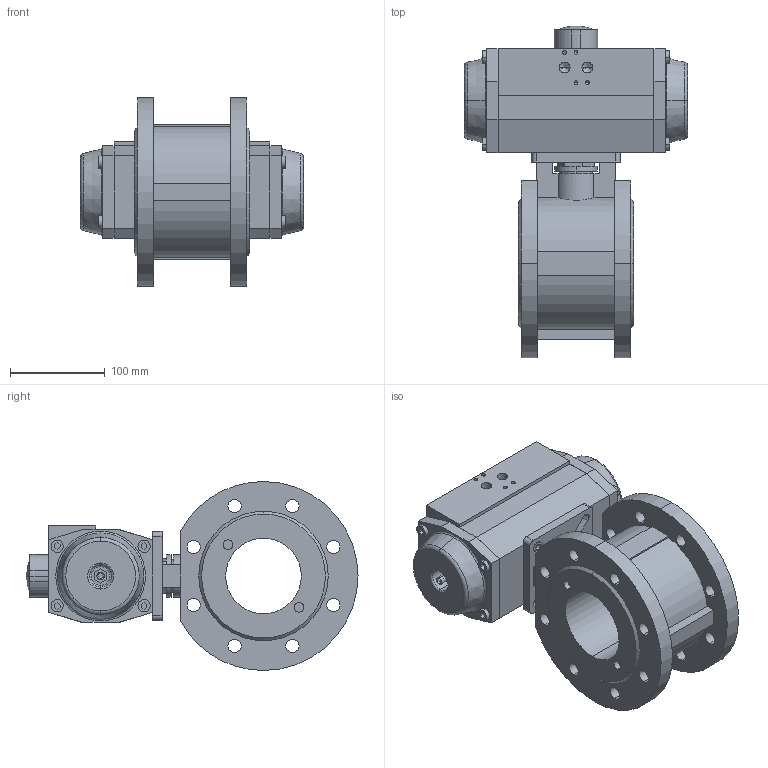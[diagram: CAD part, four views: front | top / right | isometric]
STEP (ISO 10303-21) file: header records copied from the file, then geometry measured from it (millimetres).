
FILE_DESCRIPTION (( 'STEP AP214' ), '1' );
FILE_NAME ('S15D DN80 AP3.5.STEP', '2012-04-24T08:15:15', ( 'Jan' ), ( '' ), 'SwSTEP 2.0', 'SolidWorks 2011', '' );
FILE_SCHEMA (( 'AUTOMOTIVE_DESIGN' ));
Length unit declared in the file: millimetre
Products named in the file (3): S15D KK DN80 PN16; AP3.5_Default<As Machined>; S15D DN80 AP3.5
Assembly tree (2 placements, depth 2):
  S15D DN80 AP3.5
    AP3.5_Default<As Machined>
    S15D KK DN80 PN16
Bounding box: 236 x 351.29 x 200 mm (x, y, z)
Volume: 4191925.1 mm3; surface area: 341819.8 mm2
Topology: 9 solids, 9 shells, 427 faces, 1083 edges, 692 vertices
Faces by surface type: plane 229, cylinder 142, cone 38, torus 16, sphere 2
Entity records: 14336 total; most frequent: CARTESIAN_POINT 2260, DIRECTION 2255, ORIENTED_EDGE 2106, EDGE_CURVE 1053, AXIS2_PLACEMENT_3D 773, LINE 709, VECTOR 709, VERTEX_POINT 692
